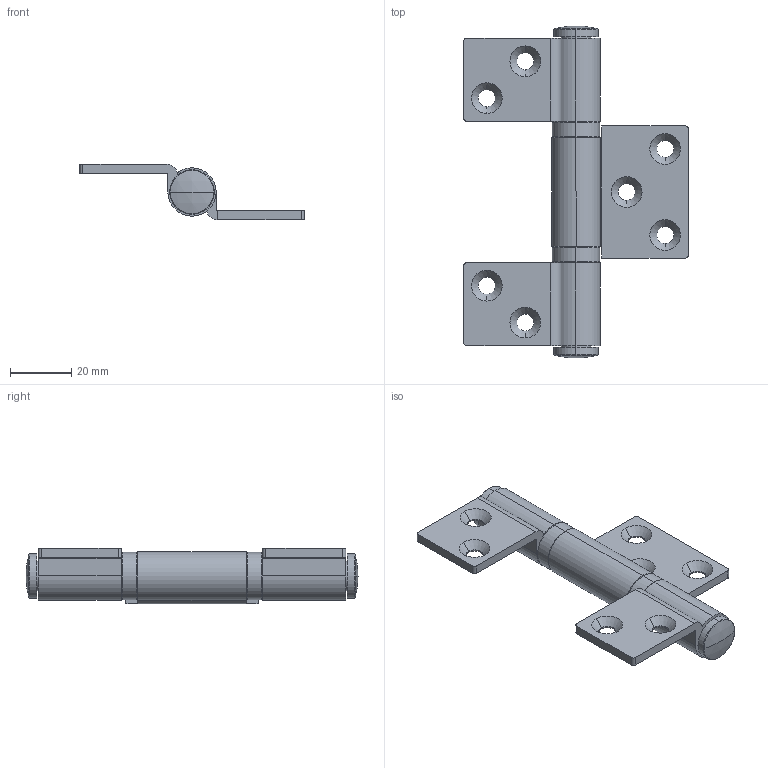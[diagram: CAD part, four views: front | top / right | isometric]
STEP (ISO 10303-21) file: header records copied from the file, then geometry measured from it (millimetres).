
FILE_DESCRIPTION (( 'STEP AP214' ), '1' );
FILE_NAME ('E3 Half Offset Hinge - Open.STEP', '2024-06-25T04:22:09', ( '' ), ( '' ), 'SwSTEP 2.0', 'SolidWorks 2023', '' );
FILE_SCHEMA (( 'AUTOMOTIVE_DESIGN' ));
Length unit declared in the file: millimetre
Products named in the file (5): E3 Half Offset Outer Flap A^E3 Half Offset Hinge; E3 Hinge Pin^E3 Half Offset Hinge; E3 Half Offset Middle Flap^E3 Half Offset Hinge; E3 Half Offset Outer Flap B^E3 Half Offset Hinge; E3 Half Offset Hinge - Open
Assembly tree (4 placements, depth 2):
  E3 Half Offset Hinge - Open
    E3 Hinge Pin^E3 Half Offset Hinge
    E3 Half Offset Outer Flap A^E3 Half Offset Hinge
    E3 Half Offset Outer Flap B^E3 Half Offset Hinge
    E3 Half Offset Middle Flap^E3 Half Offset Hinge
Bounding box: 73 x 108 x 18.2 mm (x, y, z)
Volume: 28536.7 mm3; surface area: 18906 mm2
Topology: 4 solids, 4 shells, 113 faces, 287 edges, 188 vertices
Faces by surface type: cylinder 55, plane 28, cone 22, torus 4, sphere 4
Entity records: 3677 total; most frequent: DIRECTION 689, CARTESIAN_POINT 595, ORIENTED_EDGE 574, EDGE_CURVE 287, AXIS2_PLACEMENT_3D 282, VERTEX_POINT 188, CIRCLE 162, EDGE_LOOP 139
